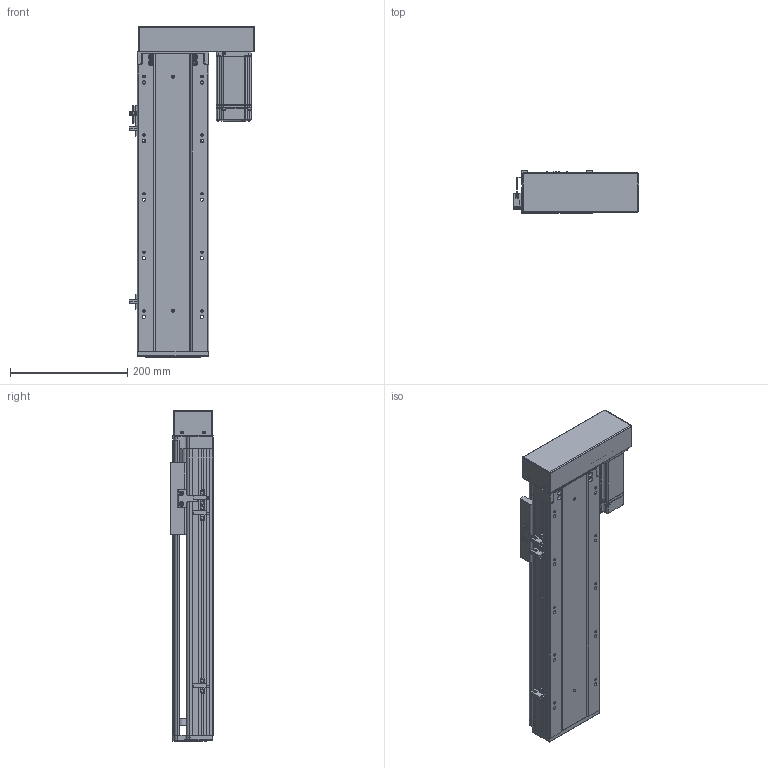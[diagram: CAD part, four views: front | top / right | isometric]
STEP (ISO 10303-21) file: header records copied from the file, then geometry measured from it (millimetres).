
FILE_DESCRIPTION (( 'STEP AP203' ), '1' );
FILE_NAME ('RY120-L1620-300-RK.SLDASM_300.step', '2021-02-22T02:30:22', ( '盈信电脑' ), ( '东莞市道滘镇水果街19号' ), 'SwSTEP 2.0', 'SolidWorks 2012', '' );
FILE_SCHEMA (( 'CONFIG_CONTROL_DESIGN' ));
Length unit declared in the file: millimetre
Products named in the file (14): RY120蛌殏萇儂欶; RY120-L1620-300-RK.SLDASM_300; RY120酘殏萇儂假蚾啣; 侂狟400W侜督萇儂; 15; 滅袉蝶18-10; 滅袉蝶18-24; RY120外置感应片(140共用）; RY120转拆电端丝杆支撑座; RY120-300-RK蛌殏倰第奻裔啣; 覜茼ん672; RY120綴裔啣; RY120臏賑輸; RY120-300-RK蛌殏倰第菁釱
Assembly tree (16 placements, depth 3):
  RY120-L1620-300-RK.SLDASM_300
    RY120-300-RK蛌殏倰第菁釱
    RY120-300-RK蛌殏倰第奻裔啣
    RY120臏賑輸
    RY120綴裔啣
    覜茼ん672  x3
    滅袉蝶18-10
    滅袉蝶18-24  x2
    RY120外置感应片(140共用）
    RY120转拆电端丝杆支撑座
    RY120酘殏萇儂假蚾啣
    侂狟400W侜督萇儂
      15
    RY120蛌殏萇儂欶
Bounding box: 214.4 x 73 x 564 mm (x, y, z)
Volume: 2056655.8 mm3; surface area: 707636.3 mm2
Topology: 16 solids, 16 shells, 2284 faces, 6251 edges, 4014 vertices
Faces by surface type: plane 1196, cylinder 804, cone 179, bspline 105
Entity records: 74663 total; most frequent: CARTESIAN_POINT 20512, ORIENTED_EDGE 11262, DIRECTION 10451, EDGE_CURVE 5631, VERTEX_POINT 3682, VECTOR 3589, LINE 3589, AXIS2_PLACEMENT_3D 3431
